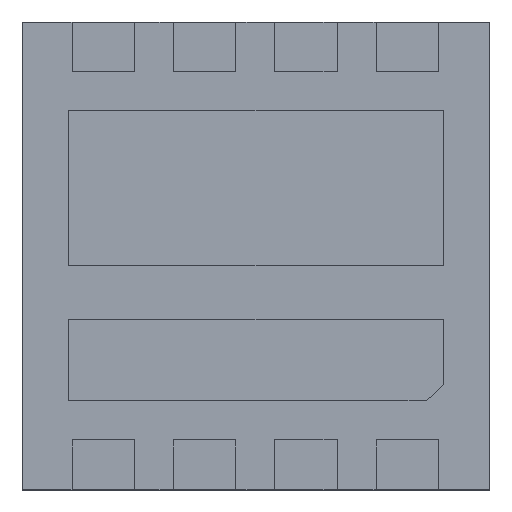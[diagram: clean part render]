
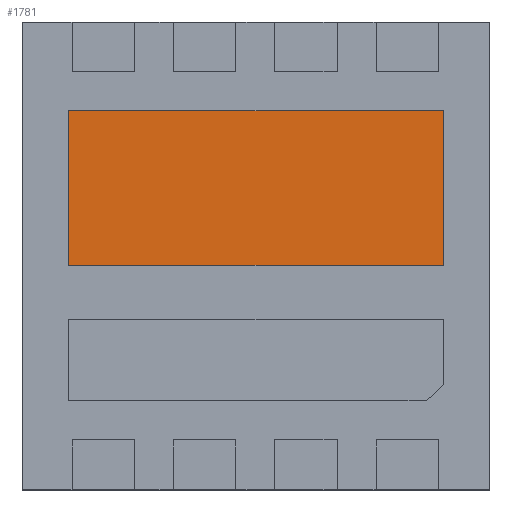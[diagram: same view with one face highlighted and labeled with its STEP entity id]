
A CAD part, top view. The second image highlights one B-rep face of the part: STEP entity #1781.
In plain terms, the highlighted planar face has unit normal (0, 0, 1) as drawn and (-1, 0, 0) by its records, which use the part's own axes.
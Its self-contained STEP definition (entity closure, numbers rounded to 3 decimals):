
#258 = VERTEX_POINT ( 'NONE', #5017 ) ;
#718 = EDGE_CURVE ( 'NONE', #6686, #2088, #3637, .T. ) ;
#914 = VECTOR ( 'NONE', #5392, 1000. ) ;
#1018 = ORIENTED_EDGE ( 'NONE', *, *, #4729, .F. ) ;
#1041 = CARTESIAN_POINT ( 'NONE',  ( 0., 0.93, 1.2 ) ) ;
#1147 = ORIENTED_EDGE ( 'NONE', *, *, #4029, .F. ) ;
#1216 = VERTEX_POINT ( 'NONE', #2924 ) ;
#1535 = VECTOR ( 'NONE', #6003, 1000. ) ;
#1614 = PLANE ( 'NONE',  #4365 ) ;
#1781 = ADVANCED_FACE ( 'NONE', ( #2840 ), #1614, .F. ) ;
#1822 = VECTOR ( 'NONE', #7286, 1000. ) ;
#2088 = VERTEX_POINT ( 'NONE', #2301 ) ;
#2271 = CARTESIAN_POINT ( 'NONE',  ( 0., -0.06, -1.2 ) ) ;
#2276 = ORIENTED_EDGE ( 'NONE', *, *, #718, .F. ) ;
#2301 = CARTESIAN_POINT ( 'NONE',  ( 0., -0.06, 1.2 ) ) ;
#2840 = FACE_OUTER_BOUND ( 'NONE', #7414, .T. ) ;
#2924 = CARTESIAN_POINT ( 'NONE',  ( 0., 0.93, -1.2 ) ) ;
#2976 = ORIENTED_EDGE ( 'NONE', *, *, #5588, .F. ) ;
#3274 = VECTOR ( 'NONE', #6837, 1000. ) ;
#3368 = CARTESIAN_POINT ( 'NONE',  ( 0., 0.435, 0. ) ) ;
#3637 = LINE ( 'NONE', #1041, #1822 ) ;
#4029 = EDGE_CURVE ( 'NONE', #1216, #6686, #4817, .T. ) ;
#4064 = LINE ( 'NONE', #2271, #914 ) ;
#4346 = CARTESIAN_POINT ( 'NONE',  ( 0., -0.06, 1.2 ) ) ;
#4365 = AXIS2_PLACEMENT_3D ( 'NONE', #3368, #5391, #5264 ) ;
#4729 = EDGE_CURVE ( 'NONE', #258, #1216, #4064, .T. ) ;
#4817 = LINE ( 'NONE', #7824, #1535 ) ;
#4960 = LINE ( 'NONE', #4346, #3274 ) ;
#5017 = CARTESIAN_POINT ( 'NONE',  ( 0., -0.06, -1.2 ) ) ;
#5264 = DIRECTION ( 'NONE',  ( 0., 0., -1. ) ) ;
#5391 = DIRECTION ( 'NONE',  ( 1., 0., 0. ) ) ;
#5392 = DIRECTION ( 'NONE',  ( 0., 1., 0. ) ) ;
#5588 = EDGE_CURVE ( 'NONE', #2088, #258, #4960, .T. ) ;
#6003 = DIRECTION ( 'NONE',  ( 0., 0., 1. ) ) ;
#6514 = CARTESIAN_POINT ( 'NONE',  ( 0., 0.93, 1.2 ) ) ;
#6686 = VERTEX_POINT ( 'NONE', #6514 ) ;
#6837 = DIRECTION ( 'NONE',  ( 0., 0., -1. ) ) ;
#7286 = DIRECTION ( 'NONE',  ( 0., -1., 0. ) ) ;
#7414 = EDGE_LOOP ( 'NONE', ( #1147, #1018, #2976, #2276 ) ) ;
#7824 = CARTESIAN_POINT ( 'NONE',  ( 0., 0.93, -1.2 ) ) ;
